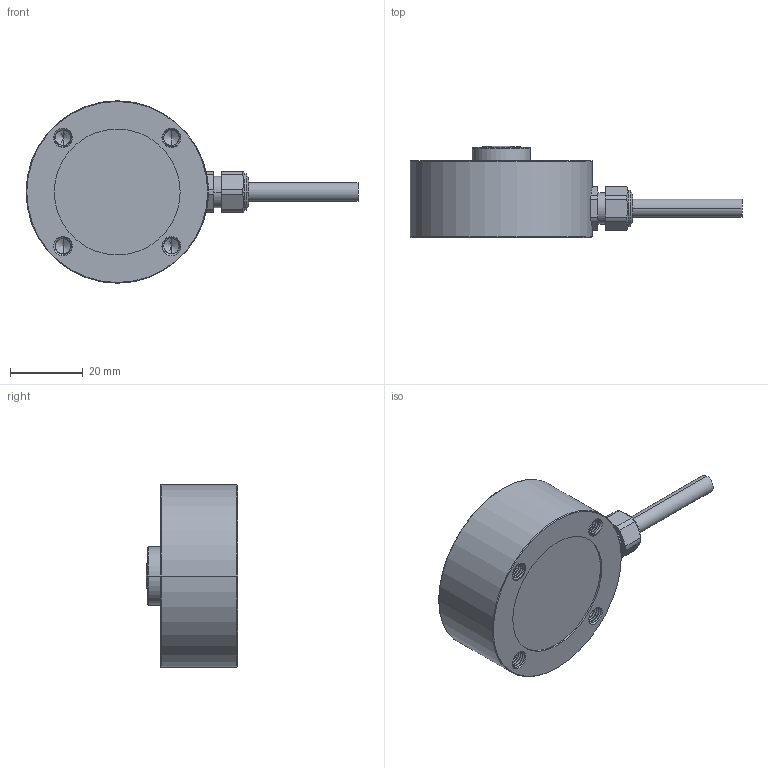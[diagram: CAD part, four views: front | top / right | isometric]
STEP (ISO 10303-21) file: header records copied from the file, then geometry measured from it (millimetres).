
FILE_DESCRIPTION (( 'STEP AP203' ), '1' );
FILE_NAME ('FC50-50kn.STEP', '2024-07-16T08:10:21', ( '' ), ( '' ), 'SwSTEP 2.0', 'SolidWorks 2019', '' );
FILE_SCHEMA (( 'CONFIG_CONTROL_DESIGN' ));
Length unit declared in the file: millimetre
Products named in the file (1): FC50-50kn
Bounding box: 91 x 25 x 50 mm (x, y, z)
Volume: 41421.5 mm3; surface area: 9442.2 mm2
Topology: 2 solids, 2 shells, 178 faces, 471 edges, 299 vertices
Faces by surface type: cylinder 106, cone 26, plane 26, bspline 12, torus 6, sphere 2
Entity records: 17258 total; most frequent: CARTESIAN_POINT 13317, ORIENTED_EDGE 926, DIRECTION 705, EDGE_CURVE 463, VERTEX_POINT 299, AXIS2_PLACEMENT_3D 265, EDGE_LOOP 188, FACE_OUTER_BOUND 178
